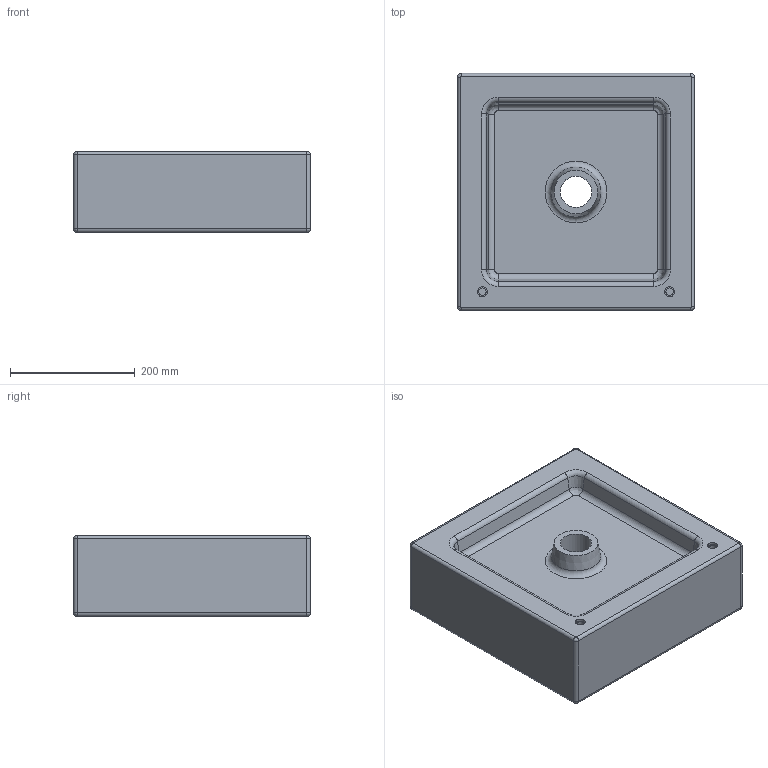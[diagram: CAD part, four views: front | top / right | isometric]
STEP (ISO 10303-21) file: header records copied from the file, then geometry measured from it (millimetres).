
FILE_DESCRIPTION( ( 'Unknown' ), '1' );
FILE_NAME( 'C:/Documents and Settings/s.pallini/Desktop/Scarabeo/Teorema 40.stp', 'Unknown', ( 'Unknown' ), ( 'Unknown' ), 'PSStep 11.0', 'Unknown', ' ' );
FILE_SCHEMA( ( 'AUTOMOTIVE_DESIGN { 1 0 10303 214 1 1 1 1 }' ) );
Length unit declared in the file: millimetre
Products named in the file (1): 1
Bounding box: 380 x 380 x 130 mm (x, y, z)
Volume: 7648671.5 mm3; surface area: 583139.8 mm2
Topology: 1 solids, 1 shells, 89 faces, 193 edges, 105 vertices
Faces by surface type: cylinder 37, plane 21, bspline 12, sphere 8, torus 6, cone 5
Full cylindrical faces by diameter (mm): 12 x2, 16 x2, 50 x1
Entity records: 3482 total; most frequent: CARTESIAN_POINT 890, DIRECTION 432, ORIENTED_EDGE 348, AXIS2_PLACEMENT_3D 180, EDGE_CURVE 174, EDGE_LOOP 106, VERTEX_POINT 102, FACE_OUTER_BOUND 96
